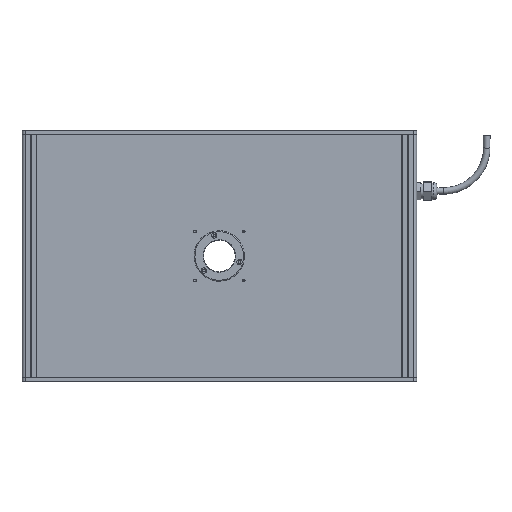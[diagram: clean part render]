
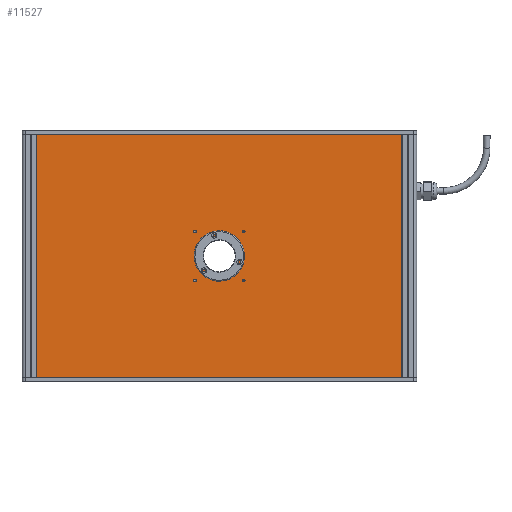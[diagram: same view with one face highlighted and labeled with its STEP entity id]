
A CAD part, front view. The second image highlights one B-rep face of the part: STEP entity #11527.
In plain terms, the highlighted planar face has unit normal (0, -1, 0) as drawn and (0, 0, 1) by its records, which use the part's own axes.
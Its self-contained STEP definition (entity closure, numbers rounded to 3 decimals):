
#275 = DIRECTION ( 'NONE',  ( 1., 0., 0. ) ) ;
#394 = CARTESIAN_POINT ( 'NONE',  ( -256.3, -150., 0. ) ) ;
#505 = CARTESIAN_POINT ( 'NONE',  ( -459., -300., 0. ) ) ;
#773 = DIRECTION ( 'NONE',  ( 1., 0., 0. ) ) ;
#932 = LINE ( 'NONE', #12787, #7796 ) ;
#1063 = CIRCLE ( 'NONE', #11149, 1.65 ) ;
#1066 = EDGE_LOOP ( 'NONE', ( #6828 ) ) ;
#1166 = CARTESIAN_POINT ( 'NONE',  ( -9., 0., 0. ) ) ;
#1334 = ORIENTED_EDGE ( 'NONE', *, *, #7183, .T. ) ;
#1414 = FACE_BOUND ( 'NONE', #5678, .T. ) ;
#1495 = FACE_BOUND ( 'NONE', #1066, .T. ) ;
#1514 = AXIS2_PLACEMENT_3D ( 'NONE', #13177, #6024, #275 ) ;
#1657 = VECTOR ( 'NONE', #2644, 1000. ) ;
#1748 = VERTEX_POINT ( 'NONE', #505 ) ;
#1803 = DIRECTION ( 'NONE',  ( 0., 0., -1. ) ) ;
#1890 = VERTEX_POINT ( 'NONE', #11532 ) ;
#1993 = EDGE_CURVE ( 'NONE', #10019, #14519, #10309, .T. ) ;
#2018 = CARTESIAN_POINT ( 'NONE',  ( -264.05, -180.05, 0. ) ) ;
#2039 = CARTESIAN_POINT ( 'NONE',  ( 0., 0., 0. ) ) ;
#2105 = DIRECTION ( 'NONE',  ( 1., 0., 0. ) ) ;
#2304 = CARTESIAN_POINT ( 'NONE',  ( -9., -300., 0. ) ) ;
#2644 = DIRECTION ( 'NONE',  ( 0., -1., 0. ) ) ;
#2735 = FACE_OUTER_BOUND ( 'NONE', #3753, .T. ) ;
#3027 = ORIENTED_EDGE ( 'NONE', *, *, #1993, .T. ) ;
#3454 = EDGE_CURVE ( 'NONE', #5356, #5356, #4525, .T. ) ;
#3695 = EDGE_CURVE ( 'NONE', #5137, #5137, #10852, .T. ) ;
#3753 = EDGE_LOOP ( 'NONE', ( #3027, #14651, #1334, #11625 ) ) ;
#3799 = ORIENTED_EDGE ( 'NONE', *, *, #13097, .F. ) ;
#4068 = VECTOR ( 'NONE', #4859, 1000. ) ;
#4386 = DIRECTION ( 'NONE',  ( 1., 0., 0. ) ) ;
#4525 = CIRCLE ( 'NONE', #6537, 22.3 ) ;
#4859 = DIRECTION ( 'NONE',  ( -1., 0., 0. ) ) ;
#4970 = VERTEX_POINT ( 'NONE', #9063 ) ;
#5137 = VERTEX_POINT ( 'NONE', #7514 ) ;
#5189 = CARTESIAN_POINT ( 'NONE',  ( -203.95, -180.05, 0. ) ) ;
#5356 = VERTEX_POINT ( 'NONE', #394 ) ;
#5570 = AXIS2_PLACEMENT_3D ( 'NONE', #2039, #1803, #10351 ) ;
#5606 = AXIS2_PLACEMENT_3D ( 'NONE', #10796, #12055, #2105 ) ;
#5678 = EDGE_LOOP ( 'NONE', ( #7749 ) ) ;
#5753 = EDGE_CURVE ( 'NONE', #8933, #8933, #1063, .T. ) ;
#5847 = EDGE_LOOP ( 'NONE', ( #3799 ) ) ;
#5862 = CIRCLE ( 'NONE', #5606, 1.65 ) ;
#5894 = LINE ( 'NONE', #1166, #4068 ) ;
#6024 = DIRECTION ( 'NONE',  ( 0., 0., 1. ) ) ;
#6044 = CARTESIAN_POINT ( 'NONE',  ( -459., 0., 0. ) ) ;
#6131 = EDGE_CURVE ( 'NONE', #6388, #6388, #14585, .T. ) ;
#6148 = DIRECTION ( 'NONE',  ( -1., 0., 0. ) ) ;
#6388 = VERTEX_POINT ( 'NONE', #7675 ) ;
#6537 = AXIS2_PLACEMENT_3D ( 'NONE', #7884, #6686, #6148 ) ;
#6686 = DIRECTION ( 'NONE',  ( 0., 0., -1. ) ) ;
#6828 = ORIENTED_EDGE ( 'NONE', *, *, #5753, .F. ) ;
#7183 = EDGE_CURVE ( 'NONE', #4970, #1748, #13506, .T. ) ;
#7514 = CARTESIAN_POINT ( 'NONE',  ( -262.4, -119.95, 0. ) ) ;
#7589 = PLANE ( 'NONE',  #5570 ) ;
#7675 = CARTESIAN_POINT ( 'NONE',  ( -202.3, -180.05, 0. ) ) ;
#7749 = ORIENTED_EDGE ( 'NONE', *, *, #3454, .T. ) ;
#7796 = VECTOR ( 'NONE', #773, 1000. ) ;
#7860 = CARTESIAN_POINT ( 'NONE',  ( -9., 0., 0. ) ) ;
#7884 = CARTESIAN_POINT ( 'NONE',  ( -234., -150., 0. ) ) ;
#8344 = EDGE_CURVE ( 'NONE', #1748, #10019, #932, .T. ) ;
#8592 = DIRECTION ( 'NONE',  ( 0., 0., 1. ) ) ;
#8933 = VERTEX_POINT ( 'NONE', #12415 ) ;
#9063 = CARTESIAN_POINT ( 'NONE',  ( -459., 0., 0. ) ) ;
#9796 = FACE_BOUND ( 'NONE', #5847, .T. ) ;
#9955 = FACE_BOUND ( 'NONE', #15505, .T. ) ;
#10019 = VERTEX_POINT ( 'NONE', #2304 ) ;
#10080 = ORIENTED_EDGE ( 'NONE', *, *, #6131, .F. ) ;
#10309 = LINE ( 'NONE', #7860, #14359 ) ;
#10351 = DIRECTION ( 'NONE',  ( -1., 0., 0. ) ) ;
#10796 = CARTESIAN_POINT ( 'NONE',  ( -203.95, -119.95, 0. ) ) ;
#10852 = CIRCLE ( 'NONE', #1514, 1.65 ) ;
#11149 = AXIS2_PLACEMENT_3D ( 'NONE', #2018, #13812, #4386 ) ;
#11193 = CARTESIAN_POINT ( 'NONE',  ( -9., 0., 0. ) ) ;
#11527 = ADVANCED_FACE ( 'NONE', ( #9955, #9796, #14811, #1495, #1414, #2735 ), #7589, .F. ) ;
#11532 = CARTESIAN_POINT ( 'NONE',  ( -202.3, -119.95, 0. ) ) ;
#11625 = ORIENTED_EDGE ( 'NONE', *, *, #8344, .T. ) ;
#12055 = DIRECTION ( 'NONE',  ( 0., 0., 1. ) ) ;
#12324 = ORIENTED_EDGE ( 'NONE', *, *, #3695, .F. ) ;
#12415 = CARTESIAN_POINT ( 'NONE',  ( -262.4, -180.05, 0. ) ) ;
#12522 = EDGE_CURVE ( 'NONE', #14519, #4970, #5894, .T. ) ;
#12673 = DIRECTION ( 'NONE',  ( 0., 1., 0. ) ) ;
#12787 = CARTESIAN_POINT ( 'NONE',  ( -9., -300., 0. ) ) ;
#13045 = AXIS2_PLACEMENT_3D ( 'NONE', #5189, #8592, #13515 ) ;
#13097 = EDGE_CURVE ( 'NONE', #1890, #1890, #5862, .T. ) ;
#13177 = CARTESIAN_POINT ( 'NONE',  ( -264.05, -119.95, 0. ) ) ;
#13506 = LINE ( 'NONE', #6044, #1657 ) ;
#13515 = DIRECTION ( 'NONE',  ( 1., 0., 0. ) ) ;
#13812 = DIRECTION ( 'NONE',  ( 0., 0., 1. ) ) ;
#14359 = VECTOR ( 'NONE', #12673, 1000. ) ;
#14457 = EDGE_LOOP ( 'NONE', ( #10080 ) ) ;
#14519 = VERTEX_POINT ( 'NONE', #11193 ) ;
#14585 = CIRCLE ( 'NONE', #13045, 1.65 ) ;
#14651 = ORIENTED_EDGE ( 'NONE', *, *, #12522, .T. ) ;
#14811 = FACE_BOUND ( 'NONE', #14457, .T. ) ;
#15505 = EDGE_LOOP ( 'NONE', ( #12324 ) ) ;
